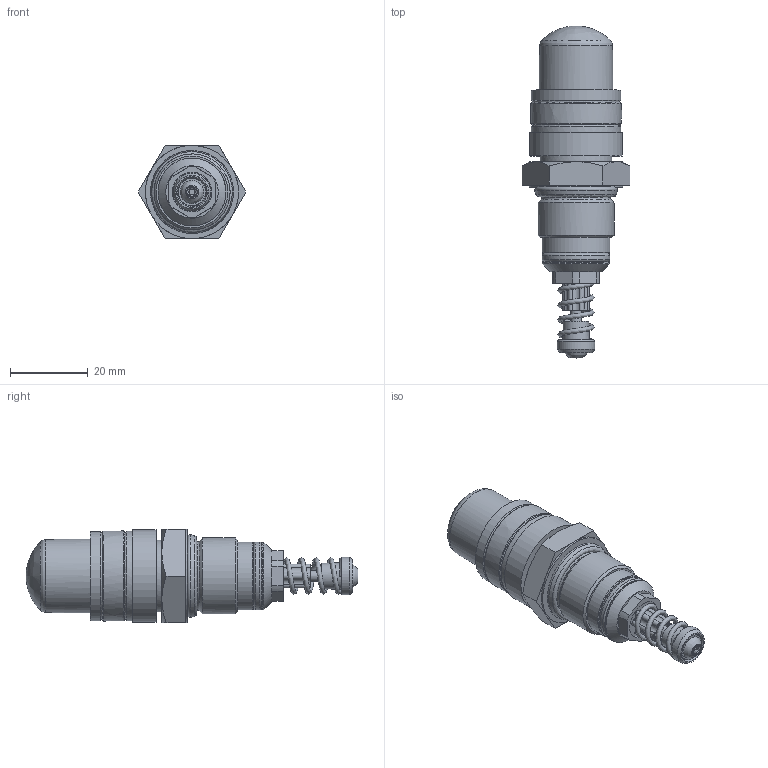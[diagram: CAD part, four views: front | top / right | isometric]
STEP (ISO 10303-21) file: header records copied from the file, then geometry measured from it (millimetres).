
FILE_DESCRIPTION((''),'2;1');
FILE_NAME('U:\Users\r.stiegele\28706001_DG064-05.stp', '2015-07-23T15:38:46',('User'),('SDRC'),'I-DEAS Master Series 9','UNIX', 'Yes');
FILE_SCHEMA(('AUTOMOTIVE_DESIGN { 1 0 10303 214 1 1 1 1 }'));
Length unit declared in the file: millimetre
Products named in the file (1): 28706001_DG064-05
Bounding box: 27.71 x 85.55 x 24 mm (x, y, z)
Volume: 22130.6 mm3; surface area: 7077.1 mm2
Topology: 1 solids, 5 shells, 149 faces, 319 edges, 197 vertices
Faces by surface type: bspline 149
Entity records: 6612 total; most frequent: CARTESIAN_POINT 4713, ORIENTED_EDGE 636, EDGE_CURVE 318, VERTEX_POINT 195, EDGE_LOOP 173, FACE_OUTER_BOUND 149, ADVANCED_FACE 149, B_SPLINE_CURVE_WITH_KNOTS 121
